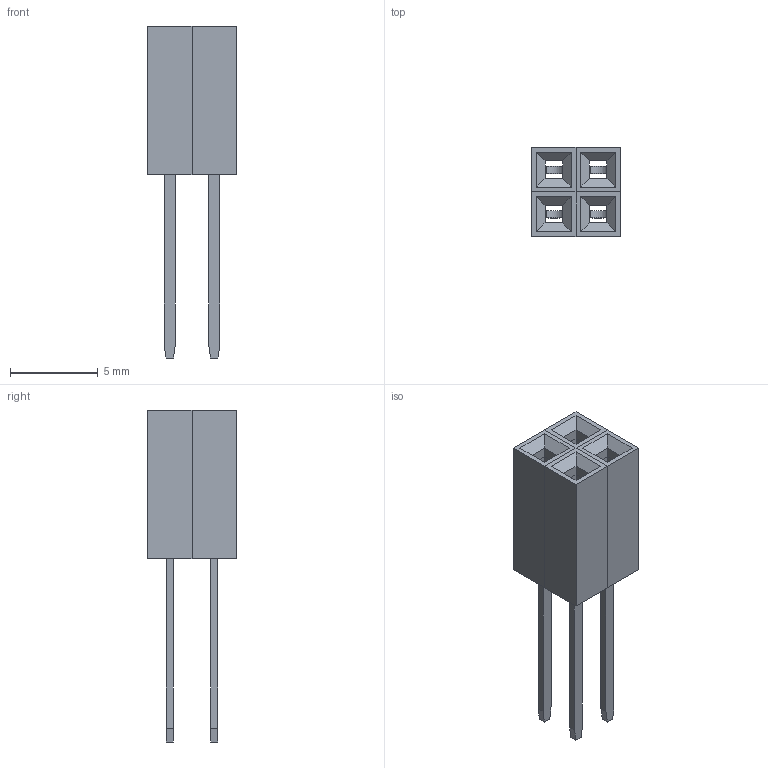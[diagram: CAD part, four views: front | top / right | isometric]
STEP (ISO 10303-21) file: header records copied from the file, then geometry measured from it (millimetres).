
FILE_DESCRIPTION(('FreeCAD Model'),'2;1');
FILE_NAME('Open CASCADE Shape Model','2024-02-09T10:46:26',( 'kicad StepUp'),('ksu MCAD'),'Open CASCADE STEP processor 7.6', 'FreeCAD','Unknown');
FILE_SCHEMA(('AUTOMOTIVE_DESIGN { 1 2 10303 214 0 1 1 1 }'));
Length unit declared in the file: millimetre
Products named in the file (7): Unnamed1; Unnamed; SIL_Socket_Body; SIL_SocketPin; Unnamed001; SIL_Socket_Body002; SIL_SocketPin002
Assembly tree (10 placements, depth 3):
  Unnamed1
    Unnamed
      SIL_Socket_Body  x2
      SIL_SocketPin  x2
    Unnamed001
      SIL_Socket_Body002  x2
      SIL_SocketPin002  x2
Bounding box: 5.08 x 5.08 x 18.96 mm (x, y, z)
Volume: 118.4 mm3; surface area: 845.8 mm2
Topology: 8 solids, 8 shells, 156 faces, 392 edges, 256 vertices
Faces by surface type: plane 136, cylinder 20
Entity records: 2810 total; most frequent: CARTESIAN_POINT 413, DIRECTION 394, ORIENTED_EDGE 392, EDGE_CURVE 196, LINE 176, VECTOR 176, VERTEX_POINT 128, AXIS2_PLACEMENT_3D 109
